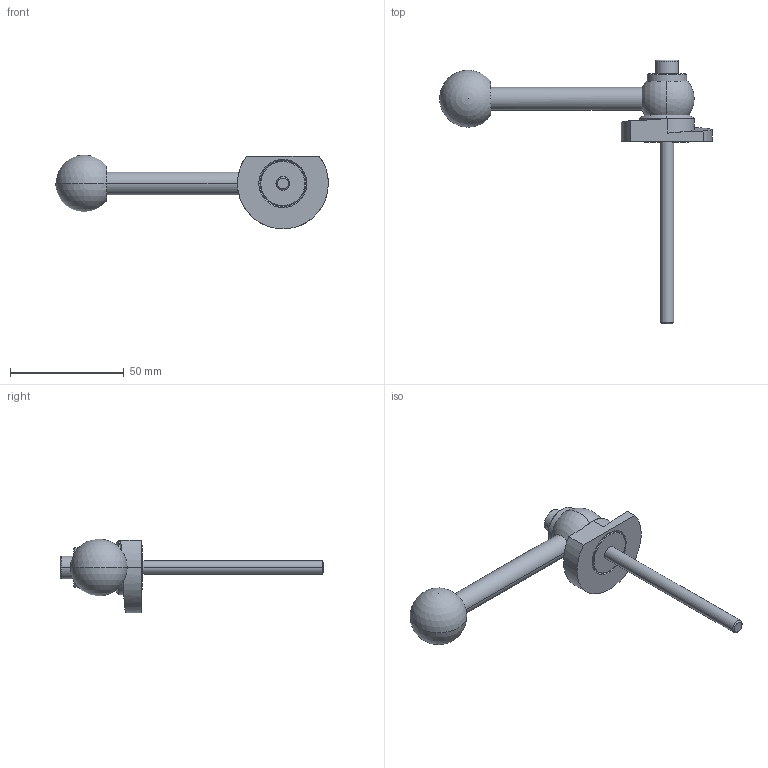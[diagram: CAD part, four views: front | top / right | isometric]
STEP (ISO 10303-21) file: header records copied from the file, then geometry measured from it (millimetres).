
FILE_DESCRIPTION (( 'STEP AP214' ), '1' );
FILE_NAME ('918.1-40-GVS-R-80.step', '2024-05-15T12:59:54', ( '' ), ( '' ), 'SwSTEP 2.0', 'SolidWorks 2022', '' );
FILE_SCHEMA (( 'AUTOMOTIVE_DESIGN' ));
Length unit declared in the file: millimetre
Products named in the file (1): 918.1-40-GVS-R-80
Bounding box: 120 x 116 x 32.5 mm (x, y, z)
Volume: 31769.7 mm3; surface area: 12247.1 mm2
Topology: 1 solids, 1 shells, 64 faces, 147 edges, 93 vertices
Faces by surface type: cylinder 22, plane 20, cone 14, sphere 4, torus 2, bspline 2
Entity records: 2045 total; most frequent: CARTESIAN_POINT 590, DIRECTION 321, ORIENTED_EDGE 274, EDGE_CURVE 137, AXIS2_PLACEMENT_3D 131, VERTEX_POINT 87, EDGE_LOOP 76, CIRCLE 68
